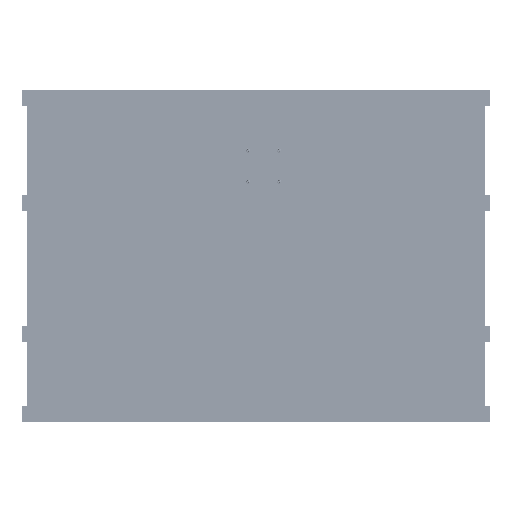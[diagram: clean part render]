
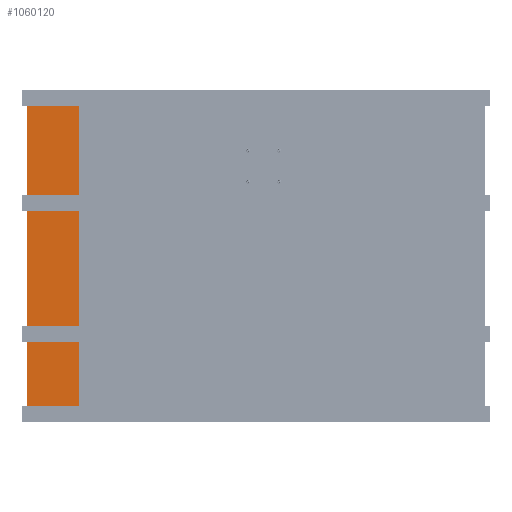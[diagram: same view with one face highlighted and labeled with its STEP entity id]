
A CAD part, front view. The second image highlights one B-rep face of the part: STEP entity #1060120.
In plain terms, the highlighted planar face has unit normal (0, -1, 0).
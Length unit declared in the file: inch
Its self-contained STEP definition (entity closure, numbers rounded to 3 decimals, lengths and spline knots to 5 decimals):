
#19506 = CARTESIAN_POINT ( 'NONE',  ( 36., -0.75, -5.625 ) ) ;
#56967 = CARTESIAN_POINT ( 'NONE',  ( -36., -0.75, 5.625 ) ) ;
#80194 = AXIS2_PLACEMENT_3D ( 'NONE', #949606, #961783, #107723 ) ;
#102499 = DIRECTION ( 'NONE',  ( 0., 0., 1. ) ) ;
#107723 = DIRECTION ( 'NONE',  ( 0., 0., 1. ) ) ;
#116554 = EDGE_CURVE ( 'NONE', #996807, #459274, #608299, .T. ) ;
#130025 = VECTOR ( 'NONE', #1182035, 39.37008 ) ;
#142382 = CARTESIAN_POINT ( 'NONE',  ( 36., -0.75, -5.625 ) ) ;
#150073 = CARTESIAN_POINT ( 'NONE',  ( -36., -0.75, 5.625 ) ) ;
#152170 = DIRECTION ( 'NONE',  ( -1., 0., 0. ) ) ;
#161122 = FACE_BOUND ( 'NONE', #553849, .T. ) ;
#179413 = DIRECTION ( 'NONE',  ( 0., 0., 1. ) ) ;
#183021 = DIRECTION ( 'NONE',  ( 0., 1., 0. ) ) ;
#195416 = CARTESIAN_POINT ( 'NONE',  ( -34.25, -0.75, 0.27345 ) ) ;
#212747 = CARTESIAN_POINT ( 'NONE',  ( 36., -0.75, 5.625 ) ) ;
#222834 = CIRCLE ( 'NONE', #1112487, 0.27345 ) ;
#226953 = ORIENTED_EDGE ( 'NONE', *, *, #528219, .T. ) ;
#238306 = CIRCLE ( 'NONE', #80194, 0.27345 ) ;
#251202 = CARTESIAN_POINT ( 'NONE',  ( 36., -0.75, 5.625 ) ) ;
#258896 = CIRCLE ( 'NONE', #535385, 0.27345 ) ;
#272512 = AXIS2_PLACEMENT_3D ( 'NONE', #1012153, #808020, #1104848 ) ;
#281957 = DIRECTION ( 'NONE',  ( 0., 0., 1. ) ) ;
#299052 = EDGE_LOOP ( 'NONE', ( #1125349 ) ) ;
#300408 = CARTESIAN_POINT ( 'NONE',  ( -17., -0.75, 0.27345 ) ) ;
#320752 = VERTEX_POINT ( 'NONE', #370400 ) ;
#348088 = CARTESIAN_POINT ( 'NONE',  ( -36., -0.75, -5.625 ) ) ;
#370400 = CARTESIAN_POINT ( 'NONE',  ( 36., -0.75, 5.625 ) ) ;
#383244 = ORIENTED_EDGE ( 'NONE', *, *, #827852, .T. ) ;
#429487 = ORIENTED_EDGE ( 'NONE', *, *, #1189817, .T. ) ;
#451856 = PLANE ( 'NONE',  #1034771 ) ;
#459274 = VERTEX_POINT ( 'NONE', #348088 ) ;
#465188 = ORIENTED_EDGE ( 'NONE', *, *, #601228, .F. ) ;
#471704 = ORIENTED_EDGE ( 'NONE', *, *, #116554, .T. ) ;
#473870 = DIRECTION ( 'NONE',  ( 0., 1., 0. ) ) ;
#528219 = EDGE_CURVE ( 'NONE', #320752, #996807, #1098948, .T. ) ;
#533058 = VECTOR ( 'NONE', #590254, 39.37008 ) ;
#535385 = AXIS2_PLACEMENT_3D ( 'NONE', #845376, #473870, #102499 ) ;
#553849 = EDGE_LOOP ( 'NONE', ( #429487 ) ) ;
#568443 = EDGE_LOOP ( 'NONE', ( #383244 ) ) ;
#578761 = CARTESIAN_POINT ( 'NONE',  ( 11.5, -0.75, 0. ) ) ;
#590254 = DIRECTION ( 'NONE',  ( 0., 0., -1. ) ) ;
#601228 = EDGE_CURVE ( 'NONE', #610670, #459274, #612768, .T. ) ;
#608299 = LINE ( 'NONE', #150073, #969978 ) ;
#610670 = VERTEX_POINT ( 'NONE', #19506 ) ;
#612768 = LINE ( 'NONE', #142382, #130025 ) ;
#631382 = CARTESIAN_POINT ( 'NONE',  ( 36., -0.75, 5.625 ) ) ;
#724303 = FACE_BOUND ( 'NONE', #820594, .T. ) ;
#748717 = FACE_OUTER_BOUND ( 'NONE', #1222252, .T. ) ;
#792023 = EDGE_CURVE ( 'NONE', #320752, #610670, #881023, .T. ) ;
#806191 = DIRECTION ( 'NONE',  ( 0., 0., -1. ) ) ;
#808020 = DIRECTION ( 'NONE',  ( 0., 1., 0. ) ) ;
#820594 = EDGE_LOOP ( 'NONE', ( #1052603 ) ) ;
#827852 = EDGE_CURVE ( 'NONE', #1011210, #1011210, #222834, .T. ) ;
#839336 = VERTEX_POINT ( 'NONE', #195416 ) ;
#845376 = CARTESIAN_POINT ( 'NONE',  ( 34.25, -0.75, 0. ) ) ;
#877480 = VERTEX_POINT ( 'NONE', #1081404 ) ;
#881023 = LINE ( 'NONE', #212747, #533058 ) ;
#922263 = FACE_BOUND ( 'NONE', #568443, .T. ) ;
#924451 = CARTESIAN_POINT ( 'NONE',  ( 11.5, -0.75, 0.27345 ) ) ;
#925404 = CIRCLE ( 'NONE', #272512, 0.27345 ) ;
#934215 = EDGE_CURVE ( 'NONE', #839336, #839336, #925404, .T. ) ;
#934504 = FACE_BOUND ( 'NONE', #299052, .T. ) ;
#949606 = CARTESIAN_POINT ( 'NONE',  ( -17., -0.75, 0. ) ) ;
#961783 = DIRECTION ( 'NONE',  ( 0., 1., 0. ) ) ;
#969978 = VECTOR ( 'NONE', #806191, 39.37008 ) ;
#974832 = VERTEX_POINT ( 'NONE', #300408 ) ;
#996807 = VERTEX_POINT ( 'NONE', #56967 ) ;
#1011210 = VERTEX_POINT ( 'NONE', #924451 ) ;
#1012153 = CARTESIAN_POINT ( 'NONE',  ( -34.25, -0.75, 0. ) ) ;
#1015717 = ORIENTED_EDGE ( 'NONE', *, *, #792023, .F. ) ;
#1027320 = DIRECTION ( 'NONE',  ( 0., 1., 0. ) ) ;
#1034771 = AXIS2_PLACEMENT_3D ( 'NONE', #631382, #1027320, #179413 ) ;
#1052603 = ORIENTED_EDGE ( 'NONE', *, *, #934215, .T. ) ;
#1060120 = ADVANCED_FACE ( 'NONE', ( #724303, #934504, #922263, #161122, #748717 ), #451856, .F. ) ;
#1069048 = VECTOR ( 'NONE', #152170, 39.37008 ) ;
#1073851 = EDGE_CURVE ( 'NONE', #974832, #974832, #238306, .T. ) ;
#1081404 = CARTESIAN_POINT ( 'NONE',  ( 34.25, -0.75, 0.27345 ) ) ;
#1098948 = LINE ( 'NONE', #251202, #1069048 ) ;
#1104848 = DIRECTION ( 'NONE',  ( 0., 0., 1. ) ) ;
#1112487 = AXIS2_PLACEMENT_3D ( 'NONE', #578761, #183021, #281957 ) ;
#1125349 = ORIENTED_EDGE ( 'NONE', *, *, #1073851, .T. ) ;
#1182035 = DIRECTION ( 'NONE',  ( -1., 0., 0. ) ) ;
#1189817 = EDGE_CURVE ( 'NONE', #877480, #877480, #258896, .T. ) ;
#1222252 = EDGE_LOOP ( 'NONE', ( #471704, #465188, #1015717, #226953 ) ) ;
